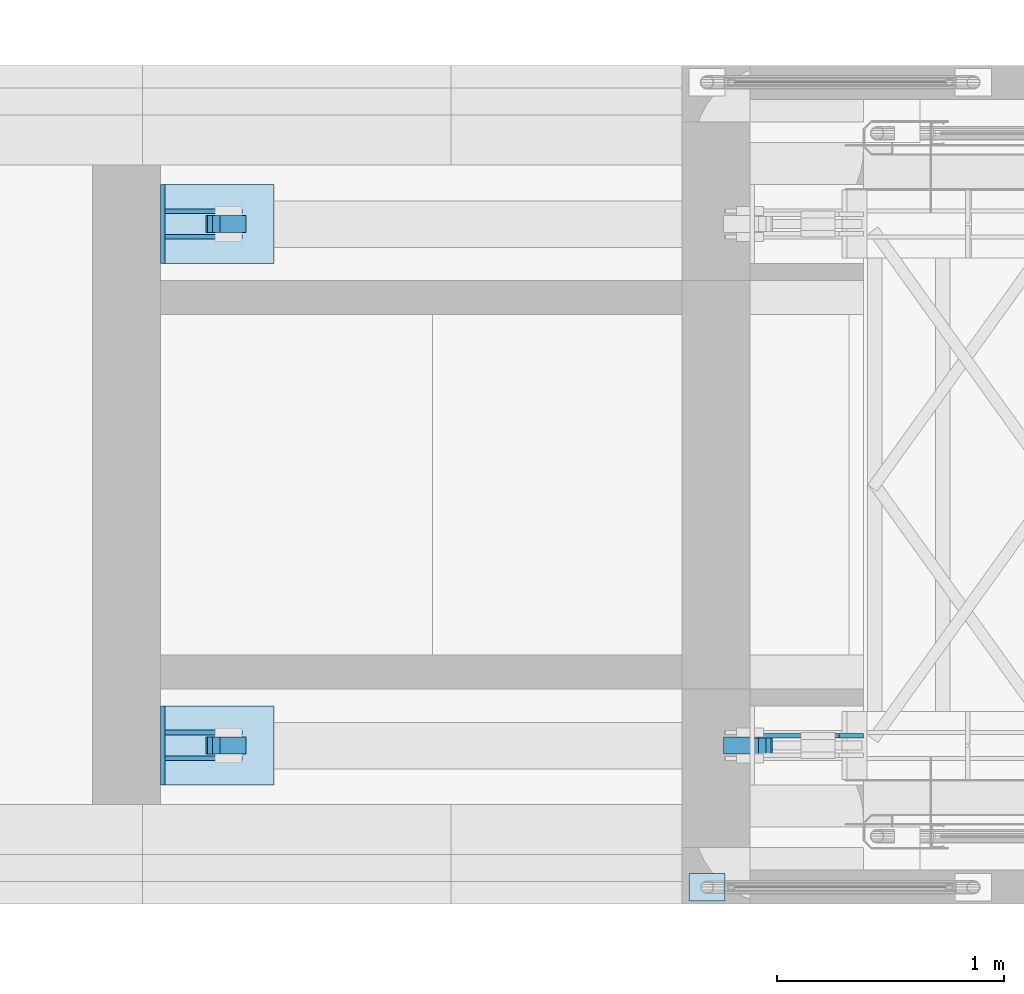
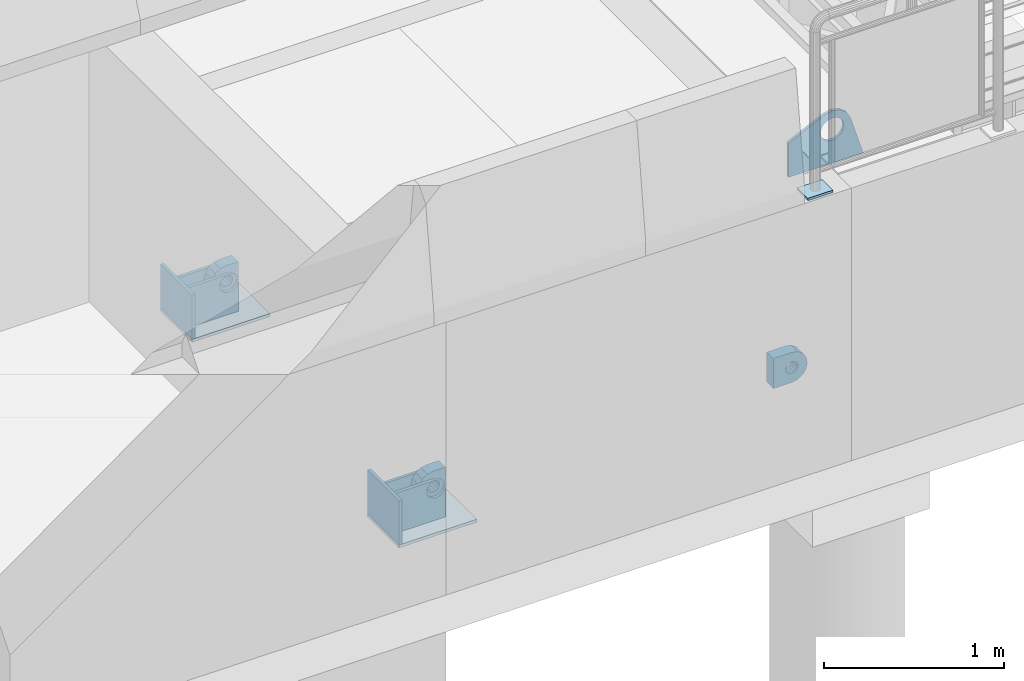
# One storey, part 27 of 31: 13 plates.
"""IFC2X3 building model written with IfcOpenShell, lengths in millimetres."""

from ifc_helpers import new_model, si_unit, frame, origin_with_axes, place, context, subcontext, project, spatial, faceted_brep, material, type_object, element, save


model = new_model("IFC2X3")

# Units and contexts
model_context = context("Model", 3, precision=1e-05, world=origin_with_axes())
body_context = subcontext(model_context, "Body", "Model", "MODEL_VIEW")
ifc_project = project(units=[si_unit("LENGTHUNIT", "METRE", prefix="MILLI"), si_unit("AREAUNIT", "SQUARE_METRE"), si_unit("VOLUMEUNIT", "CUBIC_METRE"), si_unit("MASSUNIT", "GRAM", prefix="KILO"), si_unit("TIMEUNIT", "SECOND"), si_unit("PLANEANGLEUNIT", "RADIAN"), si_unit("SOLIDANGLEUNIT", "STERADIAN"), si_unit("THERMODYNAMICTEMPERATUREUNIT", "DEGREE_CELSIUS"), si_unit("LUMINOUSINTENSITYUNIT", "LUMEN")], contexts=[model_context])

# Site, building, storey
site_placement = place(None, origin_with_axes())
site = spatial("IfcSite", under=ifc_project, at=site_placement, Name="Undefined", CompositionType="ELEMENT")
building_placement = place(site_placement, origin_with_axes())
building = spatial("IfcBuilding", under=site, at=building_placement, Name="Undefined", CompositionType="ELEMENT")
storey_placement = place(building_placement, origin_with_axes())
storey = spatial("IfcBuildingStorey", under=building, at=storey_placement, Name="Undefined", CompositionType="ELEMENT", Elevation=0.0)

# Plates
ifc_material = material(Name="STEEL/S355J2+N")
plate_type_1 = type_object("IfcPlateType", Name="PL20*300", PredefinedType="NOTDEFINED")
for number, where, z_axis, x_axis in (
    (1, (10.0, 2125.0, -1530.0), (0.0, 1.0, 0.0), (0.0, 0.0, -1.0)),
    (2, (10.0, -175.0, -1530.0), (0.0, 1.0, 0.0), (0.0, 0.0, -1.0)),
):
    element("IfcPlate", number, at=place(storey_placement, frame(where, z_axis=z_axis, x_axis=x_axis)), inside=storey, type_object=plate_type_1, material=ifc_material, Name="INNFESTING", context=body_context, shape_type="Brep", body=[
        faceted_brep([(-9.09494701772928e-13, -9.99999999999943, 0.0), (0.0, -10.0, 350.0), (0.0, 10.0, 350.0), (1.36424205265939e-12, 9.99999999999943, 0.0), (300.0, -10.0, 350.0), (300.0, 10.0, 350.0), (300.0, -10.0, 0.0), (300.0, 10.0, 0.0)], [[[0, 1, 2, 3]], [[1, 4, 5, 2]], [[4, 6, 7, 5]], [[6, 0, 3, 7]], [[5, 7, 3, 2]], [[6, 4, 1, 0]]]),
    ])
plate_type_2 = type_object("IfcPlateType", Name="PL20*270", PredefinedType="NOTDEFINED")
plate_1_placement = place(storey_placement, frame((20.0, 2357.5, -1560.0), z_axis=(1.0, 0.0, 0.0), x_axis=(0.0, 0.0, -1.0)))
element("IfcPlate", 3, at=plate_1_placement, inside=storey, type_object=plate_type_2, material=ifc_material, Name="INNFESTING", context=body_context, shape_type="Brep", body=[
    faceted_brep([(59.7447308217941, -10.0, 340.0), (59.7447308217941, 10.0, 340.0), (78.2310196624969, 10.0, 337.063390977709), (78.2310196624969, -10.0, 337.063390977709), (94.9571151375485, 10.0, 328.541019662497), (94.9571151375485, -10.0, 328.541019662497), (108.231019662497, 10.0, 315.267115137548), (108.231019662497, -10.0, 315.267115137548), (116.753390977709, 10.0, 298.541019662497), (116.753390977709, -10.0, 298.541019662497), (2.62660902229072, -10.0, 261.458980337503), (2.62660902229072, 10.0, 261.458980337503), (-0.255244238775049, 10.0, 279.945294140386), (-0.255244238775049, -10.0, 279.945294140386), (11.1489803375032, -10.0, 244.732884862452), (11.1489803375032, 10.0, 244.732884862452), (24.4228848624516, -10.0, 231.458980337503), (24.4228848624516, 10.0, 231.458980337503), (41.1489803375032, -10.0, 222.936609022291), (41.1489803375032, 10.0, 222.936609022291), (59.6900000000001, -10.0, 220.0), (59.6900000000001, 10.0, 220.0), (78.2310196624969, -10.0, 222.936609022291), (78.2310196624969, 10.0, 222.936609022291), (94.9571151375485, -10.0, 231.458980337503), (94.9571151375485, 10.0, 231.458980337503), (108.231019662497, -10.0, 244.732884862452), (108.231019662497, 10.0, 244.732884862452), (116.753390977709, -10.0, 261.458980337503), (116.753390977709, 10.0, 261.458980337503), (119.69, -10.0, 280.0), (119.69, 10.0, 280.0), (270.0, -10.0, 340.0), (270.0, -10.0, 0.0), (270.0, 10.0, 0.0), (270.0, 10.0, 340.0), (-9.09494701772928e-13, -9.99999999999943, 0.0), (1.36424205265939e-12, 9.99999999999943, 0.0), (38.6867185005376, -10.0, 335.808805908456), (33.033733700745, -10.0, 332.928466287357), (33.033733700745, 10.0, 332.928466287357), (38.6867185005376, 10.0, 335.808805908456), (36.7710900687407, 10.0, 335.427536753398), (36.7710900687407, -10.0, 335.427536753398), (20.2867912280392, -10.0, 324.404926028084), (15.3129658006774, -10.0, 319.431100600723), (15.3129658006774, 10.0, 319.431100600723), (20.2867912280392, 10.0, 324.404926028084), (17.2989869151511, 10.0, 322.407061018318), (17.2989869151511, -10.0, 322.407061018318), (6.67731739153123, -10.0, 306.490982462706), (3.938117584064, -10.0, 301.115000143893), (3.938117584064, 10.0, 301.115000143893), (6.67731739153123, 10.0, 306.490982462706), (4.29627056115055, 10.0, 302.923094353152), (4.29627056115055, -10.0, 302.923094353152)], [[[0, 1, 2, 3]], [[3, 2, 4, 5]], [[5, 4, 6, 7]], [[7, 6, 8, 9]], [[10, 11, 12, 13]], [[14, 15, 11, 10]], [[16, 17, 15, 14]], [[18, 19, 17, 16]], [[20, 21, 19, 18]], [[22, 23, 21, 20]], [[24, 25, 23, 22]], [[26, 27, 25, 24]], [[28, 29, 27, 26]], [[30, 31, 29, 28]], [[9, 8, 31, 30]], [[32, 33, 34, 35]], [[33, 36, 37, 34]], [[37, 36, 13, 12]], [[6, 4, 2, 1, 35, 34, 37, 12, 11, 15, 17, 19, 21, 23, 25, 27, 29, 31, 8]], [[32, 35, 1, 0]], [[26, 24, 22, 20, 18, 16, 14, 10, 13, 36, 33, 32, 0, 3, 5, 7, 9, 30, 28]], [[38, 39, 40, 41]], [[42, 43, 38, 41]], [[42, 41, 40]], [[43, 42, 40, 39]], [[43, 39, 38]], [[44, 45, 46, 47]], [[48, 49, 44, 47]], [[48, 47, 46]], [[49, 48, 46, 45]], [[49, 45, 44]], [[50, 51, 52, 53]], [[54, 55, 50, 53]], [[54, 53, 52]], [[55, 54, 52, 51]], [[55, 51, 50]]]),
])
plate_2_placement = place(storey_placement, frame((20.0, 2243.5, -1560.0), z_axis=(1.0, 0.0, 0.0), x_axis=(0.0, 0.0, -1.0)))
element("IfcPlate", 4, at=plate_2_placement, inside=storey, type_object=plate_type_2, material=ifc_material, Name="INNFESTING", context=body_context, shape_type="Brep", body=[
    faceted_brep([(59.7447308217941, -10.0, 340.0), (59.7447308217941, 10.0, 340.0), (78.2310196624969, 10.0, 337.063390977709), (78.2310196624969, -10.0, 337.063390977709), (94.9571151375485, 10.0, 328.541019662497), (94.9571151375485, -10.0, 328.541019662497), (108.231019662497, 10.0, 315.267115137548), (108.231019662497, -10.0, 315.267115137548), (116.753390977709, 10.0, 298.541019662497), (116.753390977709, -10.0, 298.541019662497), (2.62660902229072, -10.0, 261.458980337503), (2.62660902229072, 10.0, 261.458980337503), (-0.255244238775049, 10.0, 279.945294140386), (-0.255244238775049, -10.0, 279.945294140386), (11.1489803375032, -10.0, 244.732884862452), (11.1489803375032, 10.0, 244.732884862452), (24.4228848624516, -10.0, 231.458980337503), (24.4228848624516, 10.0, 231.458980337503), (41.1489803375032, -10.0, 222.936609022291), (41.1489803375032, 10.0, 222.936609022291), (59.6900000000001, -10.0, 220.0), (59.6900000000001, 10.0, 220.0), (78.2310196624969, -10.0, 222.936609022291), (78.2310196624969, 10.0, 222.936609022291), (94.9571151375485, -10.0, 231.458980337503), (94.9571151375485, 10.0, 231.458980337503), (108.231019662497, -10.0, 244.732884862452), (108.231019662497, 10.0, 244.732884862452), (116.753390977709, -10.0, 261.458980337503), (116.753390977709, 10.0, 261.458980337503), (119.69, -10.0, 280.0), (119.69, 10.0, 280.0), (270.0, -10.0, 340.0), (270.0, -10.0, 0.0), (270.0, 10.0, 0.0), (270.0, 10.0, 340.0), (-9.09494701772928e-13, -9.99999999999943, 0.0), (1.36424205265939e-12, 9.99999999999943, 0.0), (38.6867185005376, -10.0, 335.808805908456), (33.033733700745, -10.0, 332.928466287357), (33.033733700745, 10.0, 332.928466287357), (38.6867185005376, 10.0, 335.808805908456), (36.7710900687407, 10.0, 335.427536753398), (36.7710900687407, -10.0, 335.427536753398), (20.2867912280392, -10.0, 324.404926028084), (15.3129658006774, -10.0, 319.431100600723), (15.3129658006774, 10.0, 319.431100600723), (20.2867912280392, 10.0, 324.404926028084), (17.2989869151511, 10.0, 322.407061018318), (17.2989869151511, -10.0, 322.407061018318), (6.67731739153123, -10.0, 306.490982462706), (3.938117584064, -10.0, 301.115000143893), (3.938117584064, 10.0, 301.115000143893), (6.67731739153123, 10.0, 306.490982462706), (4.29627056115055, 10.0, 302.923094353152), (4.29627056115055, -10.0, 302.923094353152)], [[[0, 1, 2, 3]], [[3, 2, 4, 5]], [[5, 4, 6, 7]], [[7, 6, 8, 9]], [[10, 11, 12, 13]], [[14, 15, 11, 10]], [[16, 17, 15, 14]], [[18, 19, 17, 16]], [[20, 21, 19, 18]], [[22, 23, 21, 20]], [[24, 25, 23, 22]], [[26, 27, 25, 24]], [[28, 29, 27, 26]], [[30, 31, 29, 28]], [[9, 8, 31, 30]], [[32, 33, 34, 35]], [[33, 36, 37, 34]], [[37, 36, 13, 12]], [[6, 4, 2, 1, 35, 34, 37, 12, 11, 15, 17, 19, 21, 23, 25, 27, 29, 31, 8]], [[32, 35, 1, 0]], [[26, 24, 22, 20, 18, 16, 14, 10, 13, 36, 33, 32, 0, 3, 5, 7, 9, 30, 28]], [[38, 39, 40, 41]], [[42, 43, 38, 41]], [[42, 41, 40]], [[43, 42, 40, 39]], [[43, 39, 38]], [[44, 45, 46, 47]], [[48, 49, 44, 47]], [[48, 47, 46]], [[49, 48, 46, 45]], [[49, 45, 44]], [[50, 51, 52, 53]], [[54, 55, 50, 53]], [[54, 53, 52]], [[55, 54, 52, 51]], [[55, 51, 50]]]),
])
plate_3_placement = place(storey_placement, frame((20.0, 57.5, -1560.0), z_axis=(1.0, 0.0, 0.0), x_axis=(0.0, 0.0, -1.0)))
element("IfcPlate", 5, at=plate_3_placement, inside=storey, type_object=plate_type_2, material=ifc_material, Name="INNFESTING", context=body_context, shape_type="Brep", body=[
    faceted_brep([(59.7447308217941, -10.0, 340.0), (59.7447308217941, 10.0, 340.0), (78.2310196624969, 10.0, 337.063390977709), (78.2310196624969, -10.0, 337.063390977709), (94.9571151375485, 10.0, 328.541019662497), (94.9571151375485, -10.0, 328.541019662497), (108.231019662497, 10.0, 315.267115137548), (108.231019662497, -10.0, 315.267115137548), (116.753390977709, 10.0, 298.541019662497), (116.753390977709, -10.0, 298.541019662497), (2.62660902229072, -10.0, 261.458980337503), (2.62660902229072, 10.0, 261.458980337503), (-0.255244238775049, 10.0, 279.945294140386), (-0.255244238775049, -10.0, 279.945294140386), (11.1489803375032, -10.0, 244.732884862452), (11.1489803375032, 10.0, 244.732884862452), (24.4228848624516, -10.0, 231.458980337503), (24.4228848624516, 10.0, 231.458980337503), (41.1489803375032, -10.0, 222.936609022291), (41.1489803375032, 10.0, 222.936609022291), (59.6900000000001, -10.0, 220.0), (59.6900000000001, 10.0, 220.0), (78.2310196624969, -10.0, 222.936609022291), (78.2310196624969, 10.0, 222.936609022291), (94.9571151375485, -10.0, 231.458980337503), (94.9571151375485, 10.0, 231.458980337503), (108.231019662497, -10.0, 244.732884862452), (108.231019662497, 10.0, 244.732884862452), (116.753390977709, -10.0, 261.458980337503), (116.753390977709, 10.0, 261.458980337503), (119.69, -10.0, 280.0), (119.69, 10.0, 280.0), (270.0, -10.0, 340.0), (270.0, -10.0, 0.0), (270.0, 10.0, 0.0), (270.0, 10.0, 340.0), (-9.09494701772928e-13, -9.99999999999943, 0.0), (1.36424205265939e-12, 9.99999999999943, 0.0), (38.6867185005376, -10.0, 335.808805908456), (33.033733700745, -10.0, 332.928466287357), (33.033733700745, 10.0, 332.928466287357), (38.6867185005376, 10.0, 335.808805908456), (36.7710900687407, 10.0, 335.427536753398), (36.7710900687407, -10.0, 335.427536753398), (20.2867912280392, -10.0, 324.404926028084), (15.3129658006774, -10.0, 319.431100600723), (15.3129658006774, 10.0, 319.431100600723), (20.2867912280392, 10.0, 324.404926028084), (17.2989869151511, 10.0, 322.407061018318), (17.2989869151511, -10.0, 322.407061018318), (6.67731739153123, -10.0, 306.490982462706), (3.938117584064, -10.0, 301.115000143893), (3.938117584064, 10.0, 301.115000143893), (6.67731739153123, 10.0, 306.490982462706), (4.29627056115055, 10.0, 302.923094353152), (4.29627056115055, -10.0, 302.923094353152)], [[[0, 1, 2, 3]], [[3, 2, 4, 5]], [[5, 4, 6, 7]], [[7, 6, 8, 9]], [[10, 11, 12, 13]], [[14, 15, 11, 10]], [[16, 17, 15, 14]], [[18, 19, 17, 16]], [[20, 21, 19, 18]], [[22, 23, 21, 20]], [[24, 25, 23, 22]], [[26, 27, 25, 24]], [[28, 29, 27, 26]], [[30, 31, 29, 28]], [[9, 8, 31, 30]], [[32, 33, 34, 35]], [[33, 36, 37, 34]], [[37, 36, 13, 12]], [[6, 4, 2, 1, 35, 34, 37, 12, 11, 15, 17, 19, 21, 23, 25, 27, 29, 31, 8]], [[32, 35, 1, 0]], [[26, 24, 22, 20, 18, 16, 14, 10, 13, 36, 33, 32, 0, 3, 5, 7, 9, 30, 28]], [[38, 39, 40, 41]], [[42, 43, 38, 41]], [[42, 41, 40]], [[43, 42, 40, 39]], [[43, 39, 38]], [[44, 45, 46, 47]], [[48, 49, 44, 47]], [[48, 47, 46]], [[49, 48, 46, 45]], [[49, 45, 44]], [[50, 51, 52, 53]], [[54, 55, 50, 53]], [[54, 53, 52]], [[55, 54, 52, 51]], [[55, 51, 50]]]),
])
plate_4_placement = place(storey_placement, frame((20.0, -56.5, -1560.0), z_axis=(1.0, 0.0, 0.0), x_axis=(0.0, 0.0, -1.0)))
element("IfcPlate", 6, at=plate_4_placement, inside=storey, type_object=plate_type_2, material=ifc_material, Name="INNFESTING", context=body_context, shape_type="Brep", body=[
    faceted_brep([(59.7447308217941, -10.0, 340.0), (59.7447308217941, 10.0, 340.0), (78.2310196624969, 10.0, 337.063390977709), (78.2310196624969, -10.0, 337.063390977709), (94.9571151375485, 10.0, 328.541019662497), (94.9571151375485, -10.0, 328.541019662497), (108.231019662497, 10.0, 315.267115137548), (108.231019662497, -10.0, 315.267115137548), (116.753390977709, 10.0, 298.541019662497), (116.753390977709, -10.0, 298.541019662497), (2.62660902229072, -10.0, 261.458980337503), (2.62660902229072, 10.0, 261.458980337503), (-0.255244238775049, 10.0, 279.945294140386), (-0.255244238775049, -10.0, 279.945294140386), (11.1489803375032, -10.0, 244.732884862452), (11.1489803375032, 10.0, 244.732884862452), (24.4228848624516, -10.0, 231.458980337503), (24.4228848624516, 10.0, 231.458980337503), (41.1489803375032, -10.0, 222.936609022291), (41.1489803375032, 10.0, 222.936609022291), (59.6900000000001, -10.0, 220.0), (59.6900000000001, 10.0, 220.0), (78.2310196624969, -10.0, 222.936609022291), (78.2310196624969, 10.0, 222.936609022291), (94.9571151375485, -10.0, 231.458980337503), (94.9571151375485, 10.0, 231.458980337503), (108.231019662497, -10.0, 244.732884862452), (108.231019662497, 10.0, 244.732884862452), (116.753390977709, -10.0, 261.458980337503), (116.753390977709, 10.0, 261.458980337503), (119.69, -10.0, 280.0), (119.69, 10.0, 280.0), (270.0, -10.0, 340.0), (270.0, -10.0, 0.0), (270.0, 10.0, 0.0), (270.0, 10.0, 340.0), (-9.09494701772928e-13, -9.99999999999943, 0.0), (1.36424205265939e-12, 9.99999999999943, 0.0), (38.6867185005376, -10.0, 335.808805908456), (33.033733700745, -10.0, 332.928466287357), (33.033733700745, 10.0, 332.928466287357), (38.6867185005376, 10.0, 335.808805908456), (36.7710900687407, 10.0, 335.427536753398), (36.7710900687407, -10.0, 335.427536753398), (20.2867912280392, -10.0, 324.404926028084), (15.3129658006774, -10.0, 319.431100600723), (15.3129658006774, 10.0, 319.431100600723), (20.2867912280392, 10.0, 324.404926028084), (17.2989869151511, 10.0, 322.407061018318), (17.2989869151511, -10.0, 322.407061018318), (6.67731739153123, -10.0, 306.490982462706), (3.938117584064, -10.0, 301.115000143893), (3.938117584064, 10.0, 301.115000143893), (6.67731739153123, 10.0, 306.490982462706), (4.29627056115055, 10.0, 302.923094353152), (4.29627056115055, -10.0, 302.923094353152)], [[[0, 1, 2, 3]], [[3, 2, 4, 5]], [[5, 4, 6, 7]], [[7, 6, 8, 9]], [[10, 11, 12, 13]], [[14, 15, 11, 10]], [[16, 17, 15, 14]], [[18, 19, 17, 16]], [[20, 21, 19, 18]], [[22, 23, 21, 20]], [[24, 25, 23, 22]], [[26, 27, 25, 24]], [[28, 29, 27, 26]], [[30, 31, 29, 28]], [[9, 8, 31, 30]], [[32, 33, 34, 35]], [[33, 36, 37, 34]], [[37, 36, 13, 12]], [[6, 4, 2, 1, 35, 34, 37, 12, 11, 15, 17, 19, 21, 23, 25, 27, 29, 31, 8]], [[32, 35, 1, 0]], [[26, 24, 22, 20, 18, 16, 14, 10, 13, 36, 33, 32, 0, 3, 5, 7, 9, 30, 28]], [[38, 39, 40, 41]], [[42, 43, 38, 41]], [[42, 41, 40]], [[43, 42, 40, 39]], [[43, 39, 38]], [[44, 45, 46, 47]], [[48, 49, 44, 47]], [[48, 47, 46]], [[49, 48, 46, 45]], [[49, 45, 44]], [[50, 51, 52, 53]], [[54, 55, 50, 53]], [[54, 53, 52]], [[55, 54, 52, 51]], [[55, 51, 50]]]),
])
plate_type_3 = type_object("IfcPlateType", Name="PL74*205", PredefinedType="NOTDEFINED")
plate_5_placement = place(storey_placement, frame((2700.0, 0.0, -1722.19), z_axis=(-1.0, 0.0, 0.0), x_axis=(0.0, 0.0, 1.0)))
element("IfcPlate", 7, at=plate_5_placement, inside=storey, type_object=plate_type_3, material=ifc_material, Name="SYLINDER", context=body_context, shape_type="Brep", body=[
    faceted_brep([(138.695181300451, -37.0, 84.6926627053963), (138.695181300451, 37.0, 84.6926627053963), (130.024271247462, 37.0, 71.7157287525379), (130.024271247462, -37.0, 71.7157287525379), (117.047337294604, 37.0, 63.0448186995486), (117.047337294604, -37.0, 63.0448186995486), (101.74, 37.0, 60.0), (101.74, -37.0, 60.0), (86.4326627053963, 37.0, 63.0448186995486), (86.4326627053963, -37.0, 63.0448186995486), (73.4557287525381, 37.0, 71.7157287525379), (73.4557287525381, -37.0, 71.7157287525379), (64.7848186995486, 37.0, 84.6926627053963), (64.7848186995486, -37.0, 84.6926627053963), (61.74, 37.0, 100.0), (61.74, -37.0, 100.0), (64.7848186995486, 37.0, 115.307337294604), (64.7848186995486, -37.0, 115.307337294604), (73.4557287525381, 37.0, 128.284271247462), (73.4557287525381, -37.0, 128.284271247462), (86.4326627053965, 37.0, 136.955181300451), (86.4326627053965, -37.0, 136.955181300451), (101.74, 37.0, 140.0), (101.74, -37.0, 140.0), (117.047337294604, 37.0, 136.955181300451), (117.047337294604, -37.0, 136.955181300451), (130.024271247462, 37.0, 128.284271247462), (130.024271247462, -37.0, 128.284271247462), (138.695181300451, 37.0, 115.307337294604), (138.695181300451, -37.0, 115.307337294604), (141.74, 37.0, 100.0), (141.74, -37.0, 100.0), (7.61204674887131, -37.0, 61.7316567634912), (29.2893218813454, -37.0, 29.2893218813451), (61.7316567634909, -37.0, 7.61204674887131), (100.0, -37.0, 0.0), (105.0, -37.0, 0.0), (143.268343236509, -37.0, 7.61204674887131), (175.710678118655, -37.0, 29.2893218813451), (197.387953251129, -37.0, 61.7316567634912), (205.0, -37.0, 100.0), (205.0, -37.0, 218.0), (0.0, -37.0, 218.0), (0.0, -37.0, 100.0), (0.0, 37.0, 100.0), (7.61204674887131, 37.0, 61.7316567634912), (29.2893218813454, 37.0, 29.2893218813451), (61.7316567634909, 37.0, 7.61204674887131), (100.0, 37.0, 0.0), (105.0, 37.0, 0.0), (143.268343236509, 37.0, 7.61204674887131), (175.710678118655, 37.0, 29.2893218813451), (197.387953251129, 37.0, 61.7316567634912), (205.0, 37.0, 100.0), (205.0, 37.0, 218.0), (0.0, 37.0, 218.0)], [[[0, 1, 2, 3]], [[3, 2, 4, 5]], [[5, 4, 6, 7]], [[7, 6, 8, 9]], [[9, 8, 10, 11]], [[11, 10, 12, 13]], [[13, 12, 14, 15]], [[15, 14, 16, 17]], [[17, 16, 18, 19]], [[19, 18, 20, 21]], [[21, 20, 22, 23]], [[23, 22, 24, 25]], [[25, 24, 26, 27]], [[27, 26, 28, 29]], [[29, 28, 30, 31]], [[31, 30, 1, 0]], [[32, 33, 34, 35, 36, 37, 38, 39, 40, 41, 42, 43], [3, 5, 7, 9, 11, 13, 15, 17, 19, 21, 23, 25, 27, 29, 31, 0]], [[32, 43, 44, 45]], [[33, 32, 45, 46]], [[34, 33, 46, 47]], [[35, 34, 47, 48]], [[36, 35, 48, 49]], [[37, 36, 49, 50]], [[38, 37, 50, 51]], [[39, 38, 51, 52]], [[40, 39, 52, 53]], [[41, 40, 53, 54]], [[42, 41, 54, 55]], [[43, 42, 55, 44]], [[54, 53, 52, 51, 50, 49, 48, 47, 46, 45, 44, 55], [26, 24, 22, 20, 18, 16, 14, 12, 10, 8, 6, 4, 2, 1, 30, 28]]]),
])
plate_type_4 = type_object("IfcPlateType", Name="PL74*177", PredefinedType="NOTDEFINED")
plate_6_placement = place(storey_placement, frame((200.0, 2300.0, -1517.19), z_axis=(1.0, 0.0, 0.0), x_axis=(0.0, 0.0, -1.0)))
element("IfcPlate", 8, at=plate_6_placement, inside=storey, type_object=plate_type_4, material=ifc_material, Name="SYLINDER", context=body_context, shape_type="Brep", body=[
    faceted_brep([(138.695181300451, -37.0, 84.6926627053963), (138.695181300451, 37.0, 84.6926627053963), (130.024271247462, 37.0, 71.7157287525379), (130.024271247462, -37.0, 71.7157287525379), (117.047337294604, 37.0, 63.0448186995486), (117.047337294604, -37.0, 63.0448186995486), (101.74, 37.0, 60.0), (101.74, -37.0, 60.0), (86.4326627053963, 37.0, 63.0448186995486), (86.4326627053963, -37.0, 63.0448186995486), (73.4557287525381, 37.0, 71.7157287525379), (73.4557287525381, -37.0, 71.7157287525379), (64.7848186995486, 37.0, 84.6926627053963), (64.7848186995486, -37.0, 84.6926627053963), (61.74, 37.0, 100.0), (61.74, -37.0, 100.0), (64.7848186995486, 37.0, 115.307337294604), (64.7848186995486, -37.0, 115.307337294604), (73.4557287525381, 37.0, 128.284271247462), (73.4557287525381, -37.0, 128.284271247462), (86.4326627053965, 37.0, 136.955181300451), (86.4326627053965, -37.0, 136.955181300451), (101.74, 37.0, 140.0), (101.74, -37.0, 140.0), (117.047337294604, 37.0, 136.955181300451), (117.047337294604, -37.0, 136.955181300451), (130.024271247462, 37.0, 128.284271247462), (130.024271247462, -37.0, 128.284271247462), (138.695181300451, 37.0, 115.307337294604), (138.695181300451, -37.0, 115.307337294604), (141.74, 37.0, 100.0), (141.74, -37.0, 100.0), (7.61204674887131, -37.0, 61.7316567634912), (29.2893218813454, -37.0, 29.2893218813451), (61.7316567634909, -37.0, 7.61204674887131), (100.0, -37.0, 0.0), (105.0, -37.0, 0.0), (143.268343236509, -37.0, 7.61204674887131), (175.710678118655, -37.0, 29.2893218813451), (197.387953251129, -37.0, 61.7316567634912), (205.0, -37.0, 100.0), (205.0, -37.0, 177.0), (0.0, -37.0, 177.0), (0.0, -37.0, 100.0), (0.0, 37.0, 100.0), (7.61204674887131, 37.0, 61.7316567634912), (29.2893218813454, 37.0, 29.2893218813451), (61.7316567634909, 37.0, 7.61204674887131), (100.0, 37.0, 0.0), (105.0, 37.0, 0.0), (143.268343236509, 37.0, 7.61204674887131), (175.710678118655, 37.0, 29.2893218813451), (197.387953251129, 37.0, 61.7316567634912), (205.0, 37.0, 100.0), (205.0, 37.0, 177.0), (0.0, 37.0, 177.0)], [[[0, 1, 2, 3]], [[3, 2, 4, 5]], [[5, 4, 6, 7]], [[7, 6, 8, 9]], [[9, 8, 10, 11]], [[11, 10, 12, 13]], [[13, 12, 14, 15]], [[15, 14, 16, 17]], [[17, 16, 18, 19]], [[19, 18, 20, 21]], [[21, 20, 22, 23]], [[23, 22, 24, 25]], [[25, 24, 26, 27]], [[27, 26, 28, 29]], [[29, 28, 30, 31]], [[31, 30, 1, 0]], [[32, 33, 34, 35, 36, 37, 38, 39, 40, 41, 42, 43], [3, 5, 7, 9, 11, 13, 15, 17, 19, 21, 23, 25, 27, 29, 31, 0]], [[32, 43, 44, 45]], [[33, 32, 45, 46]], [[34, 33, 46, 47]], [[35, 34, 47, 48]], [[36, 35, 48, 49]], [[37, 36, 49, 50]], [[38, 37, 50, 51]], [[39, 38, 51, 52]], [[40, 39, 52, 53]], [[41, 40, 53, 54]], [[42, 41, 54, 55]], [[43, 42, 55, 44]], [[54, 53, 52, 51, 50, 49, 48, 47, 46, 45, 44, 55], [26, 24, 22, 20, 18, 16, 14, 12, 10, 8, 6, 4, 2, 1, 30, 28]]]),
])
plate_7_placement = place(storey_placement, frame((200.0, 0.0, -1517.19), z_axis=(1.0, 0.0, 0.0), x_axis=(0.0, 0.0, -1.0)))
element("IfcPlate", 9, at=plate_7_placement, inside=storey, type_object=plate_type_4, material=ifc_material, Name="SYLINDER", context=body_context, shape_type="Brep", body=[
    faceted_brep([(138.695181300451, -37.0, 84.6926627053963), (138.695181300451, 37.0, 84.6926627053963), (130.024271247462, 37.0, 71.7157287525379), (130.024271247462, -37.0, 71.7157287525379), (117.047337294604, 37.0, 63.0448186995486), (117.047337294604, -37.0, 63.0448186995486), (101.74, 37.0, 60.0), (101.74, -37.0, 60.0), (86.4326627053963, 37.0, 63.0448186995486), (86.4326627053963, -37.0, 63.0448186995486), (73.4557287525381, 37.0, 71.7157287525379), (73.4557287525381, -37.0, 71.7157287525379), (64.7848186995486, 37.0, 84.6926627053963), (64.7848186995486, -37.0, 84.6926627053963), (61.74, 37.0, 100.0), (61.74, -37.0, 100.0), (64.7848186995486, 37.0, 115.307337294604), (64.7848186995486, -37.0, 115.307337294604), (73.4557287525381, 37.0, 128.284271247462), (73.4557287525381, -37.0, 128.284271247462), (86.4326627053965, 37.0, 136.955181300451), (86.4326627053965, -37.0, 136.955181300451), (101.74, 37.0, 140.0), (101.74, -37.0, 140.0), (117.047337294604, 37.0, 136.955181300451), (117.047337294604, -37.0, 136.955181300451), (130.024271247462, 37.0, 128.284271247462), (130.024271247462, -37.0, 128.284271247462), (138.695181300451, 37.0, 115.307337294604), (138.695181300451, -37.0, 115.307337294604), (141.74, 37.0, 100.0), (141.74, -37.0, 100.0), (7.61204674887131, -37.0, 61.7316567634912), (29.2893218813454, -37.0, 29.2893218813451), (61.7316567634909, -37.0, 7.61204674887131), (100.0, -37.0, 0.0), (105.0, -37.0, 0.0), (143.268343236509, -37.0, 7.61204674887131), (175.710678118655, -37.0, 29.2893218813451), (197.387953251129, -37.0, 61.7316567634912), (205.0, -37.0, 100.0), (205.0, -37.0, 177.0), (0.0, -37.0, 177.0), (0.0, -37.0, 100.0), (0.0, 37.0, 100.0), (7.61204674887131, 37.0, 61.7316567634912), (29.2893218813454, 37.0, 29.2893218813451), (61.7316567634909, 37.0, 7.61204674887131), (100.0, 37.0, 0.0), (105.0, 37.0, 0.0), (143.268343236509, 37.0, 7.61204674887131), (175.710678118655, 37.0, 29.2893218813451), (197.387953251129, 37.0, 61.7316567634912), (205.0, 37.0, 100.0), (205.0, 37.0, 177.0), (0.0, 37.0, 177.0)], [[[0, 1, 2, 3]], [[3, 2, 4, 5]], [[5, 4, 6, 7]], [[7, 6, 8, 9]], [[9, 8, 10, 11]], [[11, 10, 12, 13]], [[13, 12, 14, 15]], [[15, 14, 16, 17]], [[17, 16, 18, 19]], [[19, 18, 20, 21]], [[21, 20, 22, 23]], [[23, 22, 24, 25]], [[25, 24, 26, 27]], [[27, 26, 28, 29]], [[29, 28, 30, 31]], [[31, 30, 1, 0]], [[32, 33, 34, 35, 36, 37, 38, 39, 40, 41, 42, 43], [3, 5, 7, 9, 11, 13, 15, 17, 19, 21, 23, 25, 27, 29, 31, 0]], [[32, 43, 44, 45]], [[33, 32, 45, 46]], [[34, 33, 46, 47]], [[35, 34, 47, 48]], [[36, 35, 48, 49]], [[37, 36, 49, 50]], [[38, 37, 50, 51]], [[39, 38, 51, 52]], [[40, 39, 52, 53]], [[41, 40, 53, 54]], [[42, 41, 54, 55]], [[43, 42, 55, 44]], [[54, 53, 52, 51, 50, 49, 48, 47, 46, 45, 44, 55], [26, 24, 22, 20, 18, 16, 14, 12, 10, 8, 6, 4, 2, 1, 30, 28]]]),
])
plate_type_5 = type_object("IfcPlateType", Name="PL20*350", PredefinedType="NOTDEFINED")
for number, where, z_axis, x_axis in (
    (10, (0.0, 2125.0, -1840.0), (0.0, 1.0, 0.0), (1.0, 0.0, 0.0)),
    (11, (0.0, -175.0, -1840.0), (0.0, 1.0, 0.0), (1.0, 0.0, 0.0)),
):
    element("IfcPlate", number, at=place(storey_placement, frame(where, z_axis=z_axis, x_axis=x_axis)), inside=storey, type_object=plate_type_5, material=ifc_material, Name="INNFESTING", context=body_context, shape_type="Brep", body=[
        faceted_brep([(-9.09494701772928e-13, -9.99999999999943, 0.0), (0.0, -10.0, 350.0), (0.0, 10.0, 350.0), (1.36424205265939e-12, 9.99999999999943, 0.0), (500.0, -10.0, 350.0), (500.0, 10.0, 350.0), (500.0, -10.0, 0.0), (500.0, 10.0, 0.0)], [[[0, 1, 2, 3]], [[1, 4, 5, 2]], [[4, 6, 7, 5]], [[6, 0, 3, 7]], [[5, 7, 3, 2]], [[6, 4, 1, 0]]]),
    ])
plate_type_6 = type_object("IfcPlateType", Name="PL15*120", PredefinedType="NOTDEFINED")
plate_8_placement = place(storey_placement, frame((2329.65600881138, -565.00000013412, 7.5), z_axis=(0.999999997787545, 6.65199999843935e-05, 0.0), x_axis=(6.65199999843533e-05, -0.999999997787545, 0.0)))
element("IfcPlate", 12, at=plate_8_placement, inside=storey, type_object=plate_type_6, material=ifc_material, Name="LKREKKVERK", context=body_context, shape_type="Brep", body=[
    faceted_brep([(1.13686837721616e-13, -7.5, 0.0), (0.0106432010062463, -7.5, 159.999999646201), (0.0106432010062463, 7.5, 159.999999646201), (1.13686837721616e-13, 7.5, 0.0), (120.010643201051, -7.5, 159.999999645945), (120.010643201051, 7.5, 159.999999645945), (120.000000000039, -7.5, -1.04591890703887e-11), (120.000000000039, 7.5, -1.04591890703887e-11)], [[[0, 1, 2, 3]], [[1, 4, 5, 2]], [[4, 6, 7, 5]], [[6, 0, 3, 7]], [[5, 7, 3, 2]], [[6, 4, 1, 0]]]),
])
plate_type_7 = type_object("IfcPlateType", Name="PL20*355", PredefinedType="NOTDEFINED")
plate_9_placement = place(storey_placement, frame((2620.0, 42.5, -150.0), z_axis=(1.0, 0.0, 0.0), x_axis=(0.0, 0.0, -1.0)))
element("IfcPlate", 13, at=plate_9_placement, inside=storey, type_object=plate_type_7, material=ifc_material, Name="INNFESTING", context=body_context, shape_type="Brep", body=[
    faceted_brep([(72.4444369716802, -10.0, 260.588571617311), (72.4444369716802, 10.0, 260.588571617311), (64.951905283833, 10.0, 242.5), (64.951905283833, -10.0, 242.5), (53.0330085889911, 10.0, 226.966991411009), (53.0330085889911, -10.0, 226.966991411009), (37.5000000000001, 10.0, 215.048094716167), (37.5000000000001, -10.0, 215.048094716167), (19.4114283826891, 10.0, 207.55556302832), (19.4114283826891, -10.0, 207.55556302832), (5.6843418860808e-14, 10.0, 205.0), (5.6843418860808e-14, -10.0, 205.0), (-19.4114283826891, 10.0, 207.55556302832), (-19.4114283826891, -10.0, 207.55556302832), (-37.5, 10.0, 215.048094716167), (-37.5, -10.0, 215.048094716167), (-53.033008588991, 10.0, 226.966991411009), (-53.033008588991, -10.0, 226.966991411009), (-64.9519052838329, 10.0, 242.5), (-64.9519052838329, -10.0, 242.5), (-72.4444369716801, 10.0, 260.588571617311), (-72.4444369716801, -10.0, 260.588571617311), (-74.9999999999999, 10.0, 280.0), (-74.9999999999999, -10.0, 280.0), (-72.44443697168, 10.0, 299.411428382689), (-72.44443697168, -10.0, 299.411428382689), (-64.9519052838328, 10.0, 317.5), (-64.9519052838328, -10.0, 317.5), (-53.033008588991, 10.0, 333.033008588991), (-53.033008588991, -10.0, 333.033008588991), (-37.4999999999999, 10.0, 344.951905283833), (-37.4999999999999, -10.0, 344.951905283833), (-19.411428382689, 10.0, 352.44443697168), (-19.411428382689, -10.0, 352.44443697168), (5.6843418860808e-14, 10.0, 355.0), (5.6843418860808e-14, -10.0, 355.0), (19.4114283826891, 10.0, 352.44443697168), (19.4114283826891, -10.0, 352.44443697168), (37.5000000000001, 10.0, 344.951905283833), (37.5000000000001, -10.0, 344.951905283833), (53.0330085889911, 10.0, 333.033008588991), (53.0330085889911, -10.0, 333.033008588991), (64.951905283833, 10.0, 317.5), (64.951905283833, -10.0, 317.5), (72.4444369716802, 10.0, 299.411428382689), (72.4444369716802, -10.0, 299.411428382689), (75.0000000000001, 10.0, 280.0), (75.0000000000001, -10.0, 280.0), (230.0, -10.0, 0.0), (230.0, -10.0, 480.0), (-36.03196229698, -10.0, 399.489039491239), (-83.0624582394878, -10.0, 373.102368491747), (-114.600655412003, -10.0, 329.359185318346), (-124.776666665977, -10.0, 276.40096829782), (-111.696533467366, -10.0, 224.084297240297), (-9.09494701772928e-13, -9.99999999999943, 0.0), (1.36424205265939e-12, 9.99999999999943, 0.0), (230.0, 10.0, 0.0), (230.0, 10.0, 480.0), (-36.03196229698, 10.0, 399.489039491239), (-83.0624582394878, 10.0, 373.102368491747), (-114.600655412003, 10.0, 329.359185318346), (-124.776666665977, 10.0, 276.40096829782), (-111.696533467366, 10.0, 224.084297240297)], [[[0, 1, 2, 3]], [[3, 2, 4, 5]], [[5, 4, 6, 7]], [[7, 6, 8, 9]], [[9, 8, 10, 11]], [[11, 10, 12, 13]], [[13, 12, 14, 15]], [[15, 14, 16, 17]], [[17, 16, 18, 19]], [[19, 18, 20, 21]], [[21, 20, 22, 23]], [[23, 22, 24, 25]], [[25, 24, 26, 27]], [[27, 26, 28, 29]], [[29, 28, 30, 31]], [[31, 30, 32, 33]], [[33, 32, 34, 35]], [[35, 34, 36, 37]], [[37, 36, 38, 39]], [[39, 38, 40, 41]], [[41, 40, 42, 43]], [[43, 42, 44, 45]], [[45, 44, 46, 47]], [[47, 46, 1, 0]], [[48, 49, 50, 51, 52, 53, 54, 55], [3, 5, 7, 9, 11, 13, 15, 17, 19, 21, 23, 25, 27, 29, 31, 33, 35, 37, 39, 41, 43, 45, 47, 0]], [[48, 55, 56, 57]], [[49, 48, 57, 58]], [[50, 49, 58, 59]], [[51, 50, 59, 60]], [[52, 51, 60, 61]], [[53, 52, 61, 62]], [[54, 53, 62, 63]], [[55, 54, 63, 56]], [[62, 61, 60, 59, 58, 57, 56, 63], [42, 40, 38, 36, 34, 32, 30, 28, 26, 24, 22, 20, 18, 16, 14, 12, 10, 8, 6, 4, 2, 1, 46, 44]]]),
])

save(model, "model.ifc")
